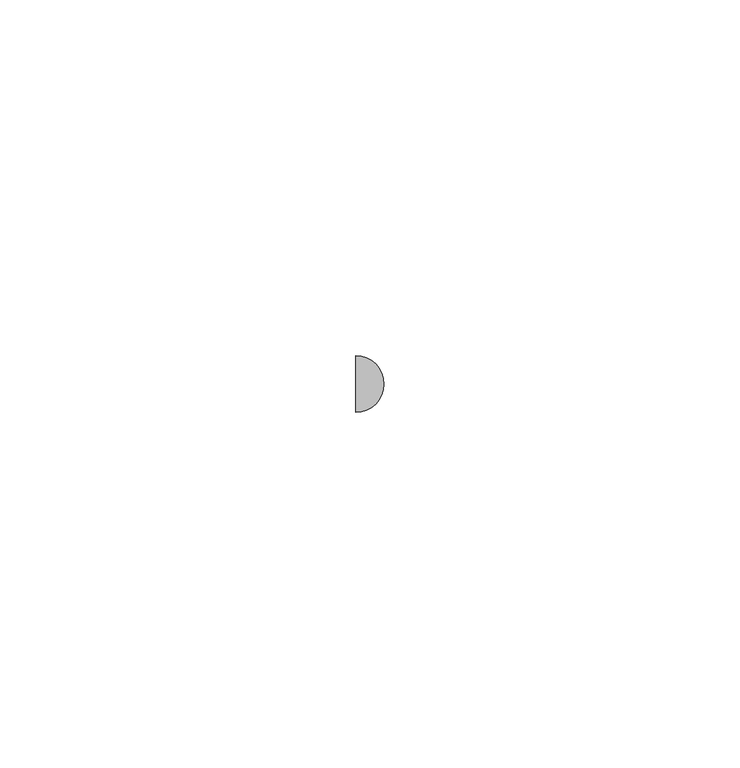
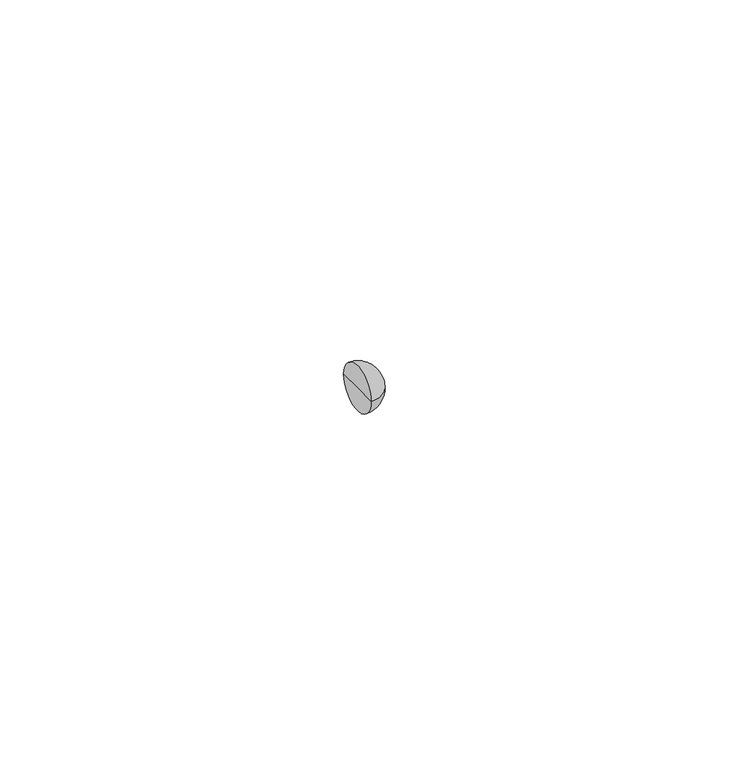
"""IFC4 building model written with IfcOpenShell, lengths in millimetres: pipe fitting geometry, NLRS_52_PIF_UN_PE multi T-stuk_geb : Standleiding - Var. DN/OD."""

from ifc_helpers import new_model, si_unit, point, frame, origin, place, context, project, spatial, circle_curve, ellipse_curve, trimmed, source, transform, mapped, element, save
from ifc_brep_helpers import plane_surface, revolved_surface, advanced_brep


def pipe_fitting_93f2e5c1(model_context):
    return source(origin(), model_context, "Body", "AdvancedBrep", [
        advanced_brep(
        [(-130.0, 0.0, 0.0), (-130.0, 4.0, 0.0), (-130.0, -4.0, 0.0), (-126.0, 0.0, 0.0)],
        [
            (0, 1),
            (1, 2, circle_curve(frame((-130.0, 0.0, 0.0), z_axis=(-1.0, 0.0, 0.0), x_axis=(0.0, 1.0, 0.0)), 4.0)),
            (2, 0),
            (2, 1, circle_curve(frame((-130.0, 0.0, 0.0), z_axis=(-1.0, 0.0, 0.0), x_axis=(0.0, 1.0, 0.0)), 4.0)),
            (1, 3, circle_curve(frame((-130.0, 0.0, 0.0), z_axis=(0.0, 0.0, -1.0), x_axis=(-1.0, 0.0, 0.0)), 4.0)),
            (3, 2, circle_curve(frame((-130.0, 0.0, 0.0), z_axis=(0.0, 0.0, -1.0), x_axis=(-1.0, 0.0, 0.0)), 4.0)),
        ],
        [
            plane_surface(frame((-130.0, 0.0, 0.0), z_axis=(-1.0, 0.0, 0.0), x_axis=(0.0, 1.0, 0.0))),
            revolved_surface(trimmed(ellipse_curve(frame((-130.0, 0.0, 0.0), z_axis=(0.0, 0.0, 1.0), x_axis=(-1.0, 0.0, 0.0)), 4.0, 4.0), [point((-126.0, 0.0, 0.0))], [point((-130.0, 4.0, 0.0))], True, "CARTESIAN"), (-128.2274263, 0.0, 0.0), (-1.0, 0.0, 0.0)),
        ],
        [
            (0, [[1, 2, 3]]),
            (0, [[-3, 4, -1]]),
            (1, [[-2, 5, 6]]),
            (1, [[-4, -6, -5]]),
        ],
    ),
    ])


if __name__ == "__main__":
    model = new_model("IFC4")
    model_context = context("Model", 3, world=origin())
    ifc_project = project(units=[si_unit("LENGTHUNIT", "METRE", prefix="MILLI")], contexts=[model_context])
    site = spatial("IfcSite", under=ifc_project)
    building = spatial("IfcBuilding", under=site)
    placement = place(None, origin())
    pipe_fitting_shape = pipe_fitting_93f2e5c1(model_context)
    element("IfcPipeFitting", 1, ObjectType="NLRS_52_PIF_UN_PE multi T-stuk_geb : Standleiding - Var. DN/OD", at=placement, inside=building, context=model_context, shape_type="MappedRepresentation", body=[
        mapped(pipe_fitting_shape, transform((0.0, 0.0, 0.0), x_axis=(1.0, 0.0, 0.0), y_axis=(0.0, 1.0, 0.0), z_axis=(0.0, 0.0, 1.0))),
    ])
    save(model, "model.ifc")
